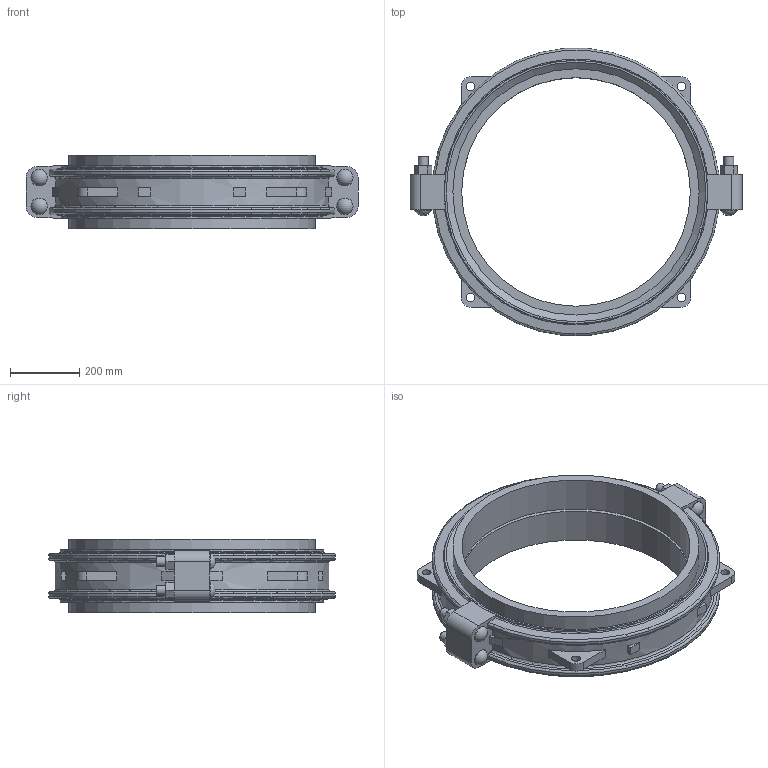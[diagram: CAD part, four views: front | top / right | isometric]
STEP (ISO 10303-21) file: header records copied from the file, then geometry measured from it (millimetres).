
FILE_DESCRIPTION(/* description */ ('VIC COUPLING FLEX STYLE W77 AGS VIC-RING ','CAx-IF Rec.Pracs.---Representation and Presentation of Product Manufacturing Information (PMI)---4.0---2014-10-13'),/* implementation_level */ '2;1');
FILE_NAME(/* name */ 'C:\Users\Vjadhav\AppData\Roaming\Autodesk\ApplicationPlugins\Victaulic.Temp\A52\Victaulic_Vic-Ring_Coupling Flexible_Style W77 (AGR)_28 (700).stp',/* time_stamp */ '2021-12-20T11:05:22+06:00',/* author */ ('Vjadhav'),/* organization */ ('Victaulic'),/* preprocessor_version */ 'ST-DEVELOPER v17.2',/* originating_system */ 'Autodesk Inventor 2019',/* authorisation */ '');
FILE_SCHEMA (('AP242_MANAGED_MODEL_BASED_3D_ENGINEERING_MIM_LF { 1 0 10303 442 1 1 4 }'));
Length unit declared in the file: inch
Products named in the file (3): W77 VR-28.0; W77 VR-28.0_1; W77 VR-28.0_2
Assembly tree (3 placements, depth 2):
  W77 VR-28.0
    W77 VR-28.0_1
    W77 VR-28.0_2  x2
Bounding box: 958.85 x 828.83 x 211.84 mm (x, y, z)
Volume: 29568517.5 mm3; surface area: 2382111.2 mm2
Topology: 3 solids, 7 shells, 187 faces, 491 edges, 340 vertices
Faces by surface type: plane 110, cylinder 47, torus 16, cone 10, sphere 4
Full cylindrical faces by diameter (mm): 25.4 x4, 28.575 x8, 47.625 x4, 660.4 x2, 692.15 x1, 711.2 x4, 760.984 x2
Entity records: 6491 total; most frequent: CARTESIAN_POINT 1514, DIRECTION 987, ORIENTED_EDGE 962, EDGE_CURVE 481, AXIS2_PLACEMENT_3D 365, VERTEX_POINT 332, LINE 257, VECTOR 257
